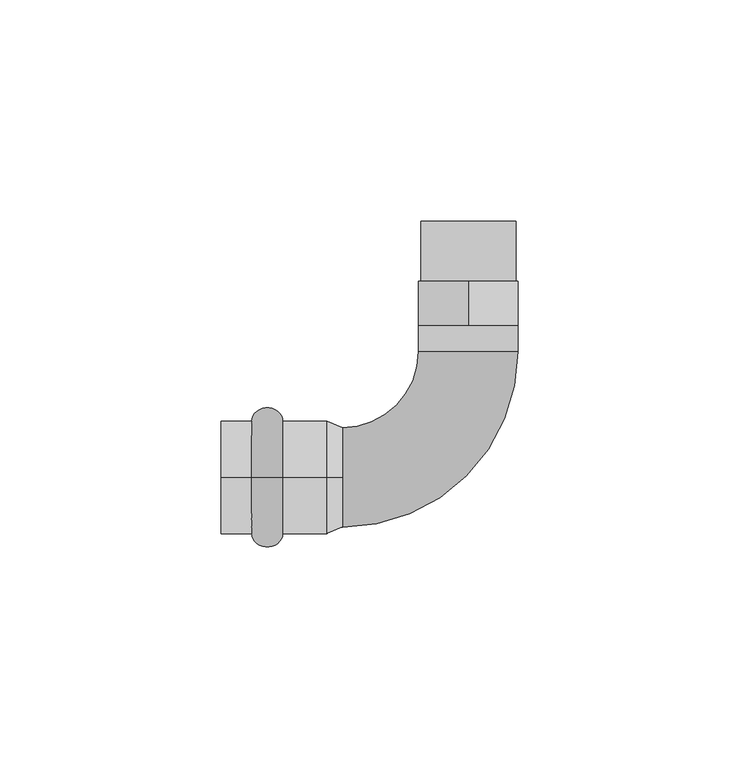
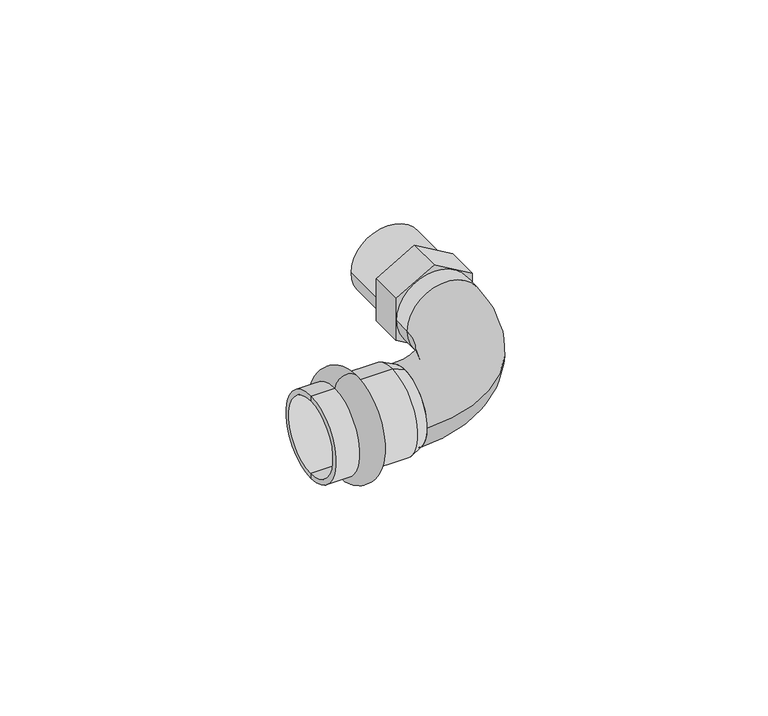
"""IFC4 building model written with IfcOpenShell, lengths in millimetres: pipe fitting geometry."""

from ifc_helpers import new_model, si_unit, point, frame, frame_2d, origin, place, context, project, spatial, polyline, circle_curve, ellipse_curve, trimmed, segment, composite_curve, outline, extrude, source, transform, mapped, element, save
from ifc_brep_helpers import plane_surface, cylinder_surface, revolved_surface, advanced_brep


def pipe_fitting_96793c39(model_context):
    return source(origin(), model_context, "Body", "SolidModel", [
        advanced_brep(
        [(-17.0, 0.0, 12.75), (-17.0, 0.0, -12.75), (-10.0, 0.0, -12.75), (-10.0, 0.0, 12.75)],
        [
            (0, 1, circle_curve(frame((-17.0, 0.0, 0.0), z_axis=(-1.0, 0.0, 0.0), x_axis=(0.0, 0.0, -1.0)), 12.75)),
            (1, 2),
            (2, 3, circle_curve(frame((-10.0, 0.0, 0.0), z_axis=(1.0, 0.0, 0.0), x_axis=(0.0, 0.0, -1.0)), 12.75)),
            (3, 0),
            (1, 0, circle_curve(frame((-17.0, 0.0, 0.0), z_axis=(-1.0, 0.0, 0.0), x_axis=(0.0, 0.0, -1.0)), 12.75)),
            (3, 2, circle_curve(frame((-10.0, 0.0, 0.0), z_axis=(1.0, 0.0, 0.0), x_axis=(0.0, 0.0, -1.0)), 12.75)),
            (2, 1, ellipse_curve(frame((-13.5, 0.0, -12.75), z_axis=(0.0, 1.0, 0.0), x_axis=(-1.0, 0.0, 0.0)), 3.5, 3.1)),
            (0, 3, ellipse_curve(frame((-13.5, 0.0, 12.75), z_axis=(0.0, 1.0, 0.0), x_axis=(-1.0, 0.0, 0.0)), 3.5, 3.1)),
        ],
        [
            revolved_surface(polyline([(-10.0, 0.0, -12.75), (-17.0, 0.0, -12.75)]), (3.0, 0.0, 0.0), (1.0, 0.0, 0.0)),
            revolved_surface(trimmed(ellipse_curve(frame((-13.5, 0.0, -12.75), z_axis=(0.0, -1.0, 0.0), x_axis=(-1.0, 0.0, 0.0)), 3.5, 3.1), [point((-17.0, 0.0, -12.75))], [point((-10.0, 0.0, -12.75))], True, "CARTESIAN"), (3.0, 0.0, 0.0), (1.0, 0.0, 0.0)),
        ],
        [
            (0, [[1, 2, 3, 4]]),
            (0, [[5, -4, 6, -2]]),
            (1, [[-3, 7, -1, 8]]),
            (1, [[-6, -8, -5, -7]]),
        ],
    ),
        advanced_brep(
        [(3.5337785, 0.0, 11.25), (3.5337785, 0.0, -11.25), (0.0, 0.0, -12.75), (0.0, 0.0, 12.75), (-24.0, 0.0, 11.25), (-24.0, 0.0, -11.25), (-24.0, 0.0, 12.75), (-24.0, 0.0, -12.75)],
        [
            (0, 1, circle_curve(frame((3.5337785, 0.0, 0.0), z_axis=(-1.0, 0.0, 0.0), x_axis=(0.0, 0.0, -1.0)), 11.25)),
            (1, 2),
            (2, 3, circle_curve(frame((0.0, 0.0, 0.0), z_axis=(1.0, 0.0, 0.0), x_axis=(0.0, 0.0, -1.0)), 12.75)),
            (3, 0),
            (1, 0, circle_curve(frame((3.5337785, 0.0, 0.0), z_axis=(-1.0, 0.0, 0.0), x_axis=(0.0, 0.0, -1.0)), 11.25)),
            (3, 2, circle_curve(frame((0.0, 0.0, 0.0), z_axis=(1.0, 0.0, 0.0), x_axis=(0.0, 0.0, -1.0)), 12.75)),
            (4, 5, circle_curve(frame((-24.0, 0.0, 0.0), z_axis=(-1.0, 0.0, 0.0), x_axis=(0.0, 0.0, -1.0)), 11.25)),
            (5, 1),
            (0, 4),
            (5, 4, circle_curve(frame((-24.0, 0.0, 0.0), z_axis=(-1.0, 0.0, 0.0), x_axis=(0.0, 0.0, -1.0)), 11.25)),
            (6, 7, circle_curve(frame((-24.0, 0.0, 0.0), z_axis=(-1.0, 0.0, 0.0), x_axis=(0.0, 0.0, -1.0)), 12.75)),
            (7, 5),
            (4, 6),
            (7, 6, circle_curve(frame((-24.0, 0.0, 0.0), z_axis=(-1.0, 0.0, 0.0), x_axis=(0.0, 0.0, -1.0)), 12.75)),
            (2, 7),
            (6, 3),
        ],
        [
            revolved_surface(polyline([(0.0, 0.0, -12.75), (3.5337785, 0.0, -11.25)]), (3.0, 0.0, 0.0), (1.0, 0.0, 0.0)),
            revolved_surface(polyline([(3.5337785, 0.0, -11.25), (-24.0, 0.0, -11.25)]), (3.0, 0.0, 0.0), (1.0, 0.0, 0.0)),
            plane_surface(frame((-24.0, 0.0, 0.0), z_axis=(-1.0, 0.0, 0.0), x_axis=(0.0, 0.0, -1.0))),
            cylinder_surface(frame((3.0, 0.0, 0.0), z_axis=(1.0, 0.0, 0.0), x_axis=(0.0, 0.0, -1.0)), 12.75),
        ],
        [
            (0, [[1, 2, 3, 4]]),
            (0, [[5, -4, 6, -2]]),
            (1, [[7, 8, -1, 9]]),
            (1, [[10, -9, -5, -8]]),
            (2, [[11, 12, -7, 13]]),
            (2, [[14, -13, -10, -12]]),
            (3, [[-3, 15, -11, 16]]),
            (3, [[-6, -16, -14, -15]]),
        ],
    ),
        extrude(outline(polyline([(6.4951905, 43.25), (12.9903811, 32.0), (6.4951905, 20.75), (-6.4951905, 20.75), (-12.9903811, 32.0), (-6.4951905, 43.25), (6.4951905, 43.25)]), holes=[polyline([(-3.6084392, 25.75), (3.6084392, 25.75), (7.2168784, 32.0), (3.6084392, 38.25), (-3.6084392, 38.25), (-7.2168784, 32.0), (-3.6084392, 25.75)])]), frame((0.0, 34.4, 0.0), z_axis=(0.0, 1.0, 0.0), x_axis=(0.0, 0.0, 1.0)), (0.0, 0.0, 1.0), 10.0),
        extrude(outline(composite_curve([segment(trimmed(circle_curve(frame_2d((0.0, 32.0)), 10.75), [point((0.0, 21.25))], [point((0.0, 42.75))], False, "CARTESIAN"), True, "CONTINUOUS"), segment(trimmed(circle_curve(frame_2d((0.0, 32.0)), 10.75), [point((0.0, 42.75))], [point((0.0, 21.25))], False, "CARTESIAN"), True, "CONTINUOUS")], self_intersect=False)), frame((0.0, 44.4, 0.0), z_axis=(0.0, 1.0, 0.0), x_axis=(0.0, 0.0, 1.0)), (0.0, 0.0, 1.0), 13.6),
        advanced_brep(
        [(0.0, -11.25, 0.0), (0.0, 11.25, 0.0), (3.5337785, -11.25, 0.0), (3.5337785, 11.25, 0.0), (20.75, 28.4662215, 0.0), (43.25, 28.4662215, 0.0), (43.25, 34.4, 0.0), (20.75, 34.4, 0.0)],
        [
            (0, 1, circle_curve(frame((0.0, 0.0, 0.0), z_axis=(-1.0, 0.0, 0.0), x_axis=(0.0, 1.0, 0.0)), 11.25)),
            (1, 0, circle_curve(frame((0.0, 0.0, 0.0), z_axis=(-1.0, 0.0, 0.0), x_axis=(0.0, 1.0, 0.0)), 11.25)),
            (0, 2),
            (2, 3, circle_curve(frame((3.5337785, 0.0, 0.0), z_axis=(-1.0, 0.0, 0.0), x_axis=(0.0, 1.0, 0.0)), 11.25)),
            (3, 1),
            (3, 2, circle_curve(frame((3.5337785, 0.0, 0.0), z_axis=(-1.0, 0.0, 0.0), x_axis=(0.0, 1.0, 0.0)), 11.25)),
            (4, 3, circle_curve(frame((3.5337785, 28.4662215, 0.0), z_axis=(0.0, 0.0, -1.0), x_axis=(0.0, -1.0, 0.0)), 17.2162215)),
            (2, 5, circle_curve(frame((3.5337785, 28.4662215, 0.0), z_axis=(0.0, 0.0, 1.0), x_axis=(0.0, -1.0, 0.0)), 39.7162215)),
            (5, 4, circle_curve(frame((32.0, 28.4662215, 0.0), z_axis=(0.0, -1.0, 0.0), x_axis=(-1.0, 0.0, 0.0)), 11.25)),
            (4, 5, circle_curve(frame((32.0, 28.4662215, 0.0), z_axis=(0.0, -1.0, 0.0), x_axis=(-1.0, 0.0, 0.0)), 11.25)),
            (6, 7, circle_curve(frame((32.0, 34.4, 0.0), z_axis=(0.0, 1.0, 0.0), x_axis=(-1.0, 0.0, 0.0)), 11.25)),
            (7, 6, circle_curve(frame((32.0, 34.4, 0.0), z_axis=(0.0, 1.0, 0.0), x_axis=(-1.0, 0.0, 0.0)), 11.25)),
            (5, 6),
            (7, 4),
        ],
        [
            plane_surface(frame((0.0, 0.0, 0.0), z_axis=(-1.0, 0.0, 0.0), x_axis=(0.0, 0.0, 1.0))),
            cylinder_surface(frame((0.0, 0.0, 0.0), z_axis=(-1.0, 0.0, 0.0), x_axis=(0.0, 1.0, 0.0)), 11.25),
            revolved_surface(trimmed(ellipse_curve(frame((3.5337785, 0.0, 0.0), z_axis=(-1.0, 0.0, 0.0), x_axis=(0.0, 1.0, 0.0)), 11.25, 11.25), [point((3.5337785, -11.25, 0.0))], [point((3.5337785, 11.25, 0.0))], True, "CARTESIAN"), (3.5337785, 28.4662215, 0.0), (0.0, 0.0, 1.0)),
            revolved_surface(trimmed(ellipse_curve(frame((3.5337785, 0.0, 0.0), z_axis=(-1.0, 0.0, 0.0), x_axis=(0.0, 1.0, 0.0)), 11.25, 11.25), [point((3.5337785, 11.25, 0.0))], [point((3.5337785, -11.25, 0.0))], True, "CARTESIAN"), (3.5337785, 28.4662215, 0.0), (0.0, 0.0, 1.0)),
            plane_surface(frame((32.0, 34.4, 0.0), z_axis=(0.0, 1.0, 0.0), x_axis=(0.0, 0.0, 1.0))),
            cylinder_surface(frame((32.0, 28.4662215, 0.0), z_axis=(0.0, -1.0, 0.0), x_axis=(-1.0, 0.0, 0.0)), 11.25),
        ],
        [
            (0, [[1, 2]]),
            (1, [[-1, 3, 4, 5]]),
            (1, [[-2, -5, 6, -3]]),
            (2, [[7, -4, 8, 9]]),
            (3, [[-8, -6, -7, 10]]),
            (4, [[11, 12]]),
            (5, [[-9, 13, -12, 14]]),
            (5, [[-10, -14, -11, -13]]),
        ],
    ),
    ])


if __name__ == "__main__":
    model = new_model("IFC4")
    model_context = context("Model", 3, world=origin())
    ifc_project = project(units=[si_unit("LENGTHUNIT", "METRE", prefix="MILLI")], contexts=[model_context])
    site = spatial("IfcSite", under=ifc_project)
    building = spatial("IfcBuilding", under=site)
    placement = place(None, origin())
    pipe_fitting_shape = pipe_fitting_96793c39(model_context)
    element("IfcPipeFitting", 1, ObjectType="РЕХАУ_Пресс Отвод НР : 22 x R 1/2\"", at=placement, inside=building, context=model_context, shape_type="MappedRepresentation", body=[
        mapped(pipe_fitting_shape, transform((0.0, 0.0, 0.0), x_axis=(1.0, 0.0, 0.0), y_axis=(0.0, 1.0, 0.0), z_axis=(0.0, 0.0, 1.0))),
    ])
    save(model, "model.ifc")
